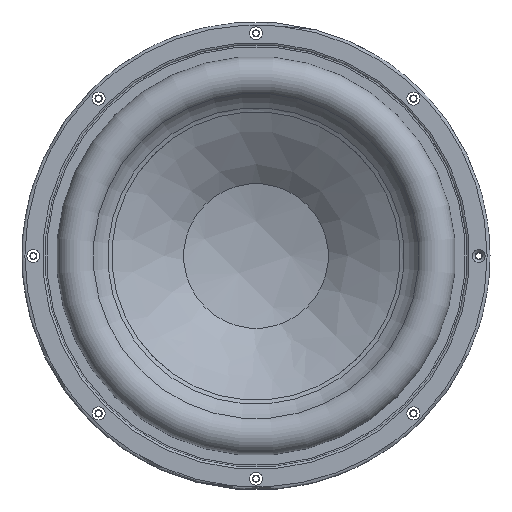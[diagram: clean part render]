
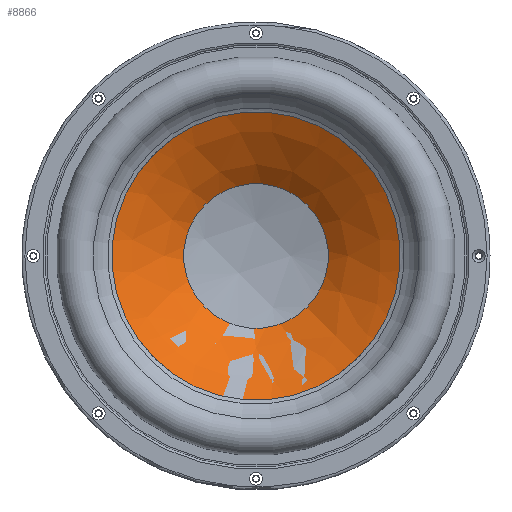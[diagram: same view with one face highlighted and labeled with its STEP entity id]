
A CAD part, left-side view. The second image highlights one B-rep face of the part: STEP entity #8866.
In plain terms, the highlighted free-form (B-spline) face has degree [2, 2] with [3, 9] control points.
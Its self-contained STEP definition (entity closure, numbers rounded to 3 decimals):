
#153=(
BOUNDED_SURFACE()
B_SPLINE_SURFACE(2,2,((#21108,#21109,#21110,#21111,#21112,#21113,#21114,
#21115,#21116),(#21117,#21118,#21119,#21120,#21121,#21122,#21123,#21124,
#21125),(#21126,#21127,#21128,#21129,#21130,#21131,#21132,#21133,#21134)),
 .UNSPECIFIED.,.F.,.T.,.F.)
B_SPLINE_SURFACE_WITH_KNOTS((3,3),(3,2,2,2,3),(2.065,2.325),
(-3.142,-1.571,0.,1.571,3.142),
 .UNSPECIFIED.)
GEOMETRIC_REPRESENTATION_ITEM()
RATIONAL_B_SPLINE_SURFACE(((1.,0.707,1.,0.707,1.,
0.707,1.,0.707,1.),(0.992,0.701,
0.992,0.701,0.992,0.701,
0.992,0.701,0.992),(1.,0.707,
1.,0.707,1.,0.707,1.,0.707,1.)))
REPRESENTATION_ITEM('')
SURFACE()
);
#1346=FACE_OUTER_BOUND('',#1839,.T.);
#1839=EDGE_LOOP('',(#6788,#6789,#6790,#6791,#6792,#6793));
#3340=CIRCLE('',#9422,0.835);
#3341=CIRCLE('',#9423,16.631);
#3342=CIRCLE('',#9424,4.331);
#3343=CIRCLE('',#9425,4.331);
#3344=CIRCLE('',#9426,0.835);
#4056=VERTEX_POINT('',#21135);
#4057=VERTEX_POINT('',#21136);
#4058=VERTEX_POINT('',#21138);
#4059=VERTEX_POINT('',#21140);
#5138=EDGE_CURVE('',#4056,#4057,#3340,.T.);
#5139=EDGE_CURVE('',#4056,#4058,#3341,.T.);
#5140=EDGE_CURVE('',#4059,#4058,#3342,.T.);
#5141=EDGE_CURVE('',#4058,#4059,#3343,.T.);
#5142=EDGE_CURVE('',#4057,#4056,#3344,.T.);
#6788=ORIENTED_EDGE('',*,*,#5138,.F.);
#6789=ORIENTED_EDGE('',*,*,#5139,.T.);
#6790=ORIENTED_EDGE('',*,*,#5140,.F.);
#6791=ORIENTED_EDGE('',*,*,#5141,.F.);
#6792=ORIENTED_EDGE('',*,*,#5139,.F.);
#6793=ORIENTED_EDGE('',*,*,#5142,.F.);
#8866=ADVANCED_FACE('',(#1346),#153,.F.);
#9422=AXIS2_PLACEMENT_3D('',#21137,#10731,#10732);
#9423=AXIS2_PLACEMENT_3D('',#21139,#10733,#10734);
#9424=AXIS2_PLACEMENT_3D('',#21141,#10735,#10736);
#9425=AXIS2_PLACEMENT_3D('',#21142,#10737,#10738);
#9426=AXIS2_PLACEMENT_3D('',#21143,#10739,#10740);
#10731=DIRECTION('center_axis',(1.,0.,0.));
#10732=DIRECTION('ref_axis',(0.,-0.707,0.707));
#10733=DIRECTION('center_axis',(0.,-0.924,
0.384));
#10734=DIRECTION('ref_axis',(0.,0.384,0.924));
#10735=DIRECTION('center_axis',(-1.,0.,0.));
#10736=DIRECTION('ref_axis',(0.,0.384,0.924));
#10737=DIRECTION('center_axis',(-1.,0.,0.));
#10738=DIRECTION('ref_axis',(0.,0.384,0.924));
#10739=DIRECTION('center_axis',(1.,0.,0.));
#10740=DIRECTION('ref_axis',(0.,-0.707,0.707));
#21108=CARTESIAN_POINT('Ctrl Pts',(4.122,1.661,4.));
#21109=CARTESIAN_POINT('Ctrl Pts',(4.122,-2.339,5.66));
#21110=CARTESIAN_POINT('Ctrl Pts',(4.122,-4.,1.661));
#21111=CARTESIAN_POINT('Ctrl Pts',(4.122,-5.66,-2.339));
#21112=CARTESIAN_POINT('Ctrl Pts',(4.122,-1.661,-4.));
#21113=CARTESIAN_POINT('Ctrl Pts',(4.122,2.339,-5.66));
#21114=CARTESIAN_POINT('Ctrl Pts',(4.122,4.,-1.661));
#21115=CARTESIAN_POINT('Ctrl Pts',(4.122,5.66,2.339));
#21116=CARTESIAN_POINT('Ctrl Pts',(4.122,1.661,4.));
#21117=CARTESIAN_POINT('Ctrl Pts',(3.091,0.927,2.233));
#21118=CARTESIAN_POINT('Ctrl Pts',(3.091,-1.306,3.161));
#21119=CARTESIAN_POINT('Ctrl Pts',(3.091,-2.233,0.927));
#21120=CARTESIAN_POINT('Ctrl Pts',(3.091,-3.161,-1.306));
#21121=CARTESIAN_POINT('Ctrl Pts',(3.091,-0.927,-2.233));
#21122=CARTESIAN_POINT('Ctrl Pts',(3.091,1.306,-3.161));
#21123=CARTESIAN_POINT('Ctrl Pts',(3.091,2.233,-0.927));
#21124=CARTESIAN_POINT('Ctrl Pts',(3.091,3.161,1.306));
#21125=CARTESIAN_POINT('Ctrl Pts',(3.091,0.927,2.233));
#21126=CARTESIAN_POINT('Ctrl Pts',(1.603,0.32,0.771));
#21127=CARTESIAN_POINT('Ctrl Pts',(1.603,-0.451,
1.091));
#21128=CARTESIAN_POINT('Ctrl Pts',(1.603,-0.771,
0.32));
#21129=CARTESIAN_POINT('Ctrl Pts',(1.603,-1.091,-0.451));
#21130=CARTESIAN_POINT('Ctrl Pts',(1.603,-0.32,
-0.771));
#21131=CARTESIAN_POINT('Ctrl Pts',(1.603,0.451,-1.091));
#21132=CARTESIAN_POINT('Ctrl Pts',(1.603,0.771,-0.32));
#21133=CARTESIAN_POINT('Ctrl Pts',(1.603,1.091,0.451));
#21134=CARTESIAN_POINT('Ctrl Pts',(1.603,0.32,0.771));
#21135=CARTESIAN_POINT('',(1.603,0.32,0.771));
#21136=CARTESIAN_POINT('',(1.603,0.59,-0.59));
#21137=CARTESIAN_POINT('Origin',(1.603,0.,
0.));
#21138=CARTESIAN_POINT('',(4.122,1.661,4.));
#21139=CARTESIAN_POINT('Origin',(-10.518,4.687,11.287));
#21140=CARTESIAN_POINT('',(4.122,-1.661,-4.));
#21141=CARTESIAN_POINT('Origin',(4.122,0.,
0.));
#21142=CARTESIAN_POINT('Origin',(4.122,0.,
0.));
#21143=CARTESIAN_POINT('Origin',(1.603,0.,
0.));
